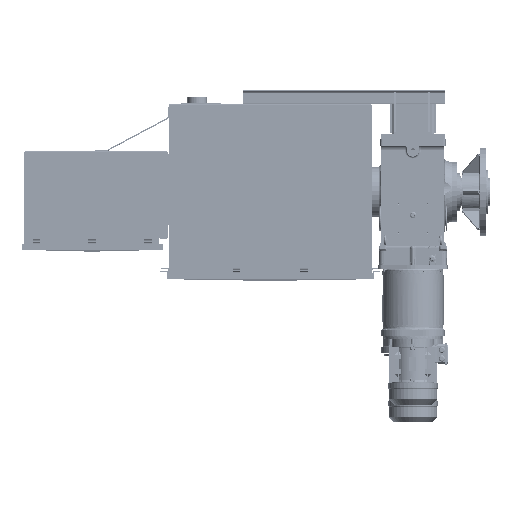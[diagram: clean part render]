
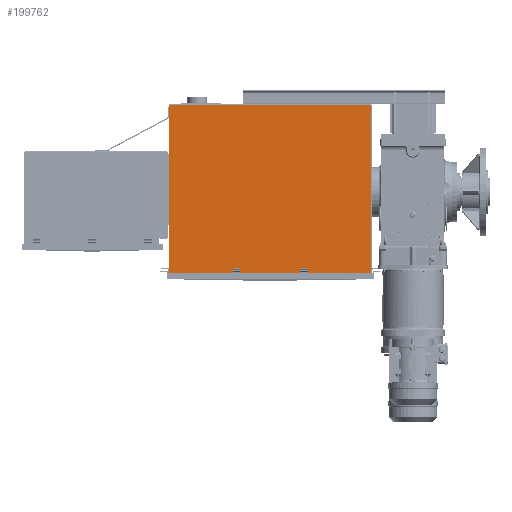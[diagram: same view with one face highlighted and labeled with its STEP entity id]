
A CAD part, top view. The second image highlights one B-rep face of the part: STEP entity #199762.
In plain terms, the highlighted planar face has unit normal (0, 0, 1).
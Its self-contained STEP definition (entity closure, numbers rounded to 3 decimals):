
#6299=FACE_BOUND('',#29382,.T.);
#6300=FACE_BOUND('',#29383,.T.);
#17785=FACE_OUTER_BOUND('',#29381,.T.);
#29381=EDGE_LOOP('',(#153868,#153869,#153870,#153871,#153872,#153873,#153874,
#153875,#153876,#153877,#153878,#153879));
#29382=EDGE_LOOP('',(#153880,#153881,#153882,#153883));
#29383=EDGE_LOOP('',(#153884,#153885,#153886,#153887));
#37292=LINE('',#279647,#54524);
#37309=LINE('',#279692,#54541);
#37311=LINE('',#279696,#54543);
#37312=LINE('',#279698,#54544);
#37313=LINE('',#279707,#54545);
#37330=LINE('',#279752,#54562);
#37332=LINE('',#279756,#54564);
#37333=LINE('',#279758,#54565);
#43648=LINE('',#337863,#60880);
#43651=LINE('',#337869,#60883);
#43654=LINE('',#337876,#60886);
#43657=LINE('',#337880,#60889);
#43663=LINE('',#337892,#60895);
#43665=LINE('',#337896,#60897);
#43667=LINE('',#337899,#60899);
#43668=LINE('',#337902,#60900);
#43669=LINE('',#337904,#60901);
#43670=LINE('',#337905,#60902);
#43671=LINE('',#337907,#60903);
#43672=LINE('',#337908,#60904);
#54524=VECTOR('',#226076,40.);
#54541=VECTOR('',#226119,40.);
#54543=VECTOR('',#226123,40.);
#54544=VECTOR('',#226126,40.);
#54545=VECTOR('',#226135,40.);
#54562=VECTOR('',#226178,40.);
#54564=VECTOR('',#226182,40.);
#54565=VECTOR('',#226185,40.);
#60880=VECTOR('',#248690,945.);
#60883=VECTOR('',#248695,0.992);
#60886=VECTOR('',#248700,2.976);
#60889=VECTOR('',#248705,1.984);
#60895=VECTOR('',#248715,2.976);
#60897=VECTOR('',#248719,0.992);
#60899=VECTOR('',#248723,1.984);
#60900=VECTOR('',#248726,51.016);
#60901=VECTOR('',#248727,894.016);
#60902=VECTOR('',#248728,1051.);
#60903=VECTOR('',#248729,894.016);
#60904=VECTOR('',#248730,51.016);
#77670=VERTEX_POINT('',#279645);
#77671=VERTEX_POINT('',#279646);
#77686=VERTEX_POINT('',#279690);
#77687=VERTEX_POINT('',#279694);
#77690=VERTEX_POINT('',#279705);
#77691=VERTEX_POINT('',#279706);
#77706=VERTEX_POINT('',#279750);
#77707=VERTEX_POINT('',#279754);
#86035=VERTEX_POINT('',#337515);
#86151=VERTEX_POINT('',#337855);
#86152=VERTEX_POINT('',#337859);
#86154=VERTEX_POINT('',#337867);
#86156=VERTEX_POINT('',#337873);
#86157=VERTEX_POINT('',#337875);
#86160=VERTEX_POINT('',#337889);
#86161=VERTEX_POINT('',#337891);
#86162=VERTEX_POINT('',#337895);
#86163=VERTEX_POINT('',#337901);
#86164=VERTEX_POINT('',#337903);
#86165=VERTEX_POINT('',#337906);
#97120=EDGE_CURVE('',#77670,#77671,#37292,.T.);
#97143=EDGE_CURVE('',#77671,#77686,#37309,.T.);
#97145=EDGE_CURVE('',#77687,#77670,#37311,.T.);
#97146=EDGE_CURVE('',#77686,#77687,#37312,.T.);
#97149=EDGE_CURVE('',#77690,#77691,#37313,.T.);
#97172=EDGE_CURVE('',#77691,#77706,#37330,.T.);
#97174=EDGE_CURVE('',#77707,#77690,#37332,.T.);
#97175=EDGE_CURVE('',#77706,#77707,#37333,.T.);
#110026=EDGE_CURVE('',#86151,#86152,#43648,.T.);
#110029=EDGE_CURVE('',#86152,#86154,#43651,.T.);
#110032=EDGE_CURVE('',#86157,#86156,#43654,.T.);
#110035=EDGE_CURVE('',#86154,#86157,#43657,.T.);
#110041=EDGE_CURVE('',#86161,#86160,#43663,.T.);
#110043=EDGE_CURVE('',#86162,#86151,#43665,.T.);
#110045=EDGE_CURVE('',#86160,#86162,#43667,.T.);
#110046=EDGE_CURVE('',#86163,#86156,#43668,.T.);
#110047=EDGE_CURVE('',#86164,#86163,#43669,.T.);
#110048=EDGE_CURVE('',#86164,#86035,#43670,.T.);
#110049=EDGE_CURVE('',#86165,#86035,#43671,.T.);
#110050=EDGE_CURVE('',#86161,#86165,#43672,.T.);
#153868=ORIENTED_EDGE('',*,*,#110032,.T.);
#153869=ORIENTED_EDGE('',*,*,#110046,.F.);
#153870=ORIENTED_EDGE('',*,*,#110047,.F.);
#153871=ORIENTED_EDGE('',*,*,#110048,.T.);
#153872=ORIENTED_EDGE('',*,*,#110049,.F.);
#153873=ORIENTED_EDGE('',*,*,#110050,.F.);
#153874=ORIENTED_EDGE('',*,*,#110041,.T.);
#153875=ORIENTED_EDGE('',*,*,#110045,.T.);
#153876=ORIENTED_EDGE('',*,*,#110043,.T.);
#153877=ORIENTED_EDGE('',*,*,#110026,.T.);
#153878=ORIENTED_EDGE('',*,*,#110029,.T.);
#153879=ORIENTED_EDGE('',*,*,#110035,.T.);
#153880=ORIENTED_EDGE('',*,*,#97120,.T.);
#153881=ORIENTED_EDGE('',*,*,#97143,.T.);
#153882=ORIENTED_EDGE('',*,*,#97146,.T.);
#153883=ORIENTED_EDGE('',*,*,#97145,.T.);
#153884=ORIENTED_EDGE('',*,*,#97149,.T.);
#153885=ORIENTED_EDGE('',*,*,#97172,.T.);
#153886=ORIENTED_EDGE('',*,*,#97175,.T.);
#153887=ORIENTED_EDGE('',*,*,#97174,.T.);
#179583=PLANE('',#214003);
#199762=ADVANCED_FACE('',(#17785,#6299,#6300),#179583,.F.);
#214003=AXIS2_PLACEMENT_3D('',#337900,#248724,#248725);
#226076=DIRECTION('',(0.,1.,0.));
#226119=DIRECTION('',(1.,0.,0.));
#226123=DIRECTION('',(-1.,0.,0.));
#226126=DIRECTION('',(0.,-1.,0.));
#226135=DIRECTION('',(0.,1.,0.));
#226178=DIRECTION('',(1.,0.,0.));
#226182=DIRECTION('',(-1.,0.,0.));
#226185=DIRECTION('',(0.,-1.,0.));
#248690=DIRECTION('',(1.,0.,0.));
#248695=DIRECTION('',(0.,1.,0.));
#248700=DIRECTION('',(0.,-1.,0.));
#248705=DIRECTION('',(1.,0.,0.));
#248715=DIRECTION('',(0.,1.,0.));
#248719=DIRECTION('',(0.,-1.,0.));
#248723=DIRECTION('',(1.,0.,0.));
#248724=DIRECTION('center_axis',(0.,0.,
-1.));
#248725=DIRECTION('ref_axis',(1.,0.,0.));
#248726=DIRECTION('',(-1.,0.,0.));
#248727=DIRECTION('',(0.,-1.,0.));
#248728=DIRECTION('',(-1.,0.,0.));
#248729=DIRECTION('',(0.,1.,0.));
#248730=DIRECTION('',(-1.,0.,0.));
#279645=CARTESIAN_POINT('',(-1065.982,-646.817,872.238));
#279646=CARTESIAN_POINT('',(-1065.982,-606.817,872.238));
#279647=CARTESIAN_POINT('',(-1065.982,-409.737,872.238));
#279690=CARTESIAN_POINT('',(-1025.982,-606.817,872.238));
#279692=CARTESIAN_POINT('',(-958.482,-606.817,872.238));
#279694=CARTESIAN_POINT('',(-1025.982,-646.817,872.238));
#279696=CARTESIAN_POINT('',(-958.482,-646.817,872.238));
#279698=CARTESIAN_POINT('',(-1025.982,-409.737,872.238));
#279705=CARTESIAN_POINT('',(-715.982,-646.817,872.238));
#279706=CARTESIAN_POINT('',(-715.982,-606.817,872.238));
#279707=CARTESIAN_POINT('',(-715.982,-409.737,872.238));
#279750=CARTESIAN_POINT('',(-675.982,-606.817,872.238));
#279752=CARTESIAN_POINT('',(-783.482,-606.817,872.238));
#279754=CARTESIAN_POINT('',(-675.982,-646.817,872.238));
#279756=CARTESIAN_POINT('',(-783.482,-646.817,872.238));
#279758=CARTESIAN_POINT('',(-675.982,-409.737,872.238));
#337515=CARTESIAN_POINT('',(-1396.482,241.483,872.238));
#337855=CARTESIAN_POINT('',(-1343.482,-650.55,872.238));
#337859=CARTESIAN_POINT('',(-398.482,-650.55,872.238));
#337863=CARTESIAN_POINT('',(-634.732,-650.55,872.238));
#337867=CARTESIAN_POINT('',(-398.482,-649.558,872.238));
#337869=CARTESIAN_POINT('',(-398.482,-425.17,872.238));
#337873=CARTESIAN_POINT('',(-396.499,-652.534,872.238));
#337875=CARTESIAN_POINT('',(-396.499,-649.558,872.238));
#337876=CARTESIAN_POINT('',(-396.499,-426.658,872.238));
#337880=CARTESIAN_POINT('',(-633.74,-649.558,872.238));
#337889=CARTESIAN_POINT('',(-1345.466,-649.558,872.238));
#337891=CARTESIAN_POINT('',(-1345.466,-652.534,872.238));
#337892=CARTESIAN_POINT('',(-1345.466,-425.17,872.238));
#337895=CARTESIAN_POINT('',(-1343.482,-649.558,872.238));
#337896=CARTESIAN_POINT('',(-1343.482,-426.658,872.238));
#337899=CARTESIAN_POINT('',(-1107.232,-649.558,872.238));
#337900=CARTESIAN_POINT('Origin',(-870.982,-200.782,872.238));
#337901=CARTESIAN_POINT('',(-345.482,-652.534,872.238));
#337902=CARTESIAN_POINT('',(-345.482,-652.534,872.238));
#337903=CARTESIAN_POINT('',(-345.482,241.483,872.238));
#337904=CARTESIAN_POINT('',(-345.482,241.483,872.238));
#337905=CARTESIAN_POINT('',(-870.982,241.483,872.238));
#337906=CARTESIAN_POINT('',(-1396.482,-652.534,872.238));
#337907=CARTESIAN_POINT('',(-1396.482,250.457,872.238));
#337908=CARTESIAN_POINT('',(-345.482,-652.534,872.238));
